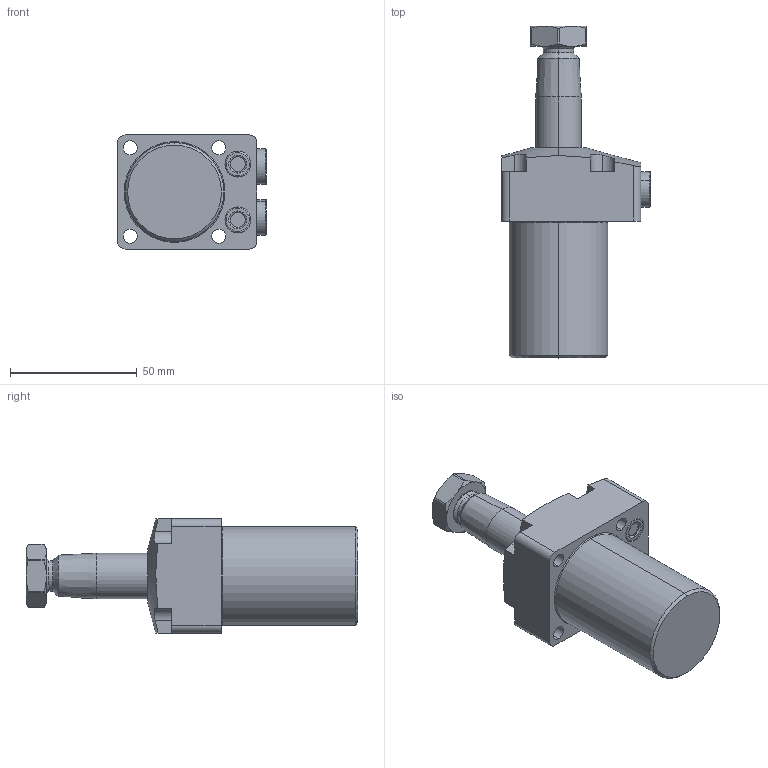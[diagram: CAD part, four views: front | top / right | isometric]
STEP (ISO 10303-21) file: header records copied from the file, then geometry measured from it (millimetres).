
FILE_DESCRIPTION(/* description */ (''),/* implementation_level */ '2;1');
FILE_NAME(/* name */ 'TRC02-R.stp',/* time_stamp */ '2025-01-04T08:37:28+08:00',/* author */ (''),/* organization */ (''),/* preprocessor_version */ 'ST-DEVELOPER v16.7',/* originating_system */ 'SIEMENS PLM Software NX 12.0',/* authorisation */ '');
FILE_SCHEMA (('AUTOMOTIVE_DESIGN { 1 0 10303 214 3 1 1 1 }'));
Length unit declared in the file: millimetre
Products named in the file (5): TRC02-R-01; TRC02-R-02; TRC02-R-03; TRC02-R-04; TRC02-R_stp
Assembly tree (5 placements, depth 2):
  TRC02-R_stp
    TRC02-R-04  x2
    TRC02-R-03
    TRC02-R-02
    TRC02-R-01
Bounding box: 58.8 x 131 x 45 mm (x, y, z)
Volume: 133880.8 mm3; surface area: 25930.8 mm2
Topology: 5 solids, 7 shells, 203 faces, 457 edges, 280 vertices
Faces by surface type: cylinder 73, plane 67, cone 40, torus 22, sphere 1
Entity records: 5354 total; most frequent: CARTESIAN_POINT 1094, DIRECTION 922, ORIENTED_EDGE 820, EDGE_CURVE 410, AXIS2_PLACEMENT_3D 378, VERTEX_POINT 252, EDGE_LOOP 206, CIRCLE 191
